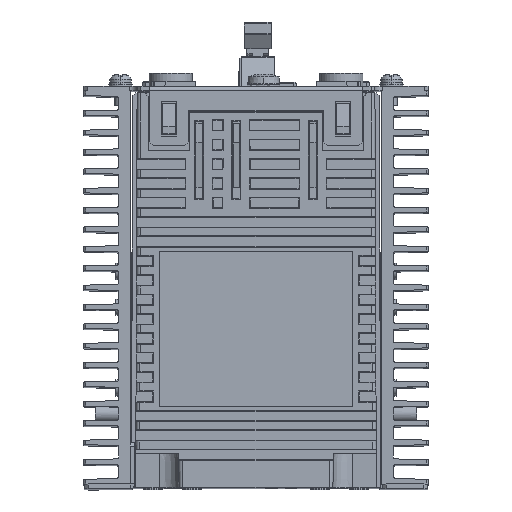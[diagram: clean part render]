
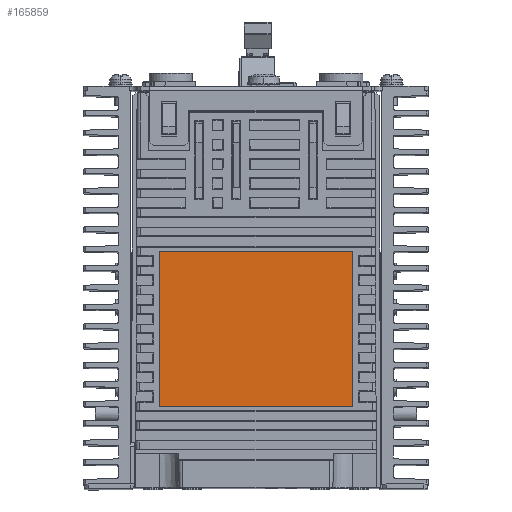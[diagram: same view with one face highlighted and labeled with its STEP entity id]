
A CAD part, top view. The second image highlights one B-rep face of the part: STEP entity #165859.
In plain terms, the highlighted planar face has unit normal (0, 0, 1).
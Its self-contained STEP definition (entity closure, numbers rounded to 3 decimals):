
#35731 = CARTESIAN_POINT ( 'NONE',  ( -25., 61.1, 99.7 ) ) ;
#42371 = CARTESIAN_POINT ( 'NONE',  ( 0., 0.3, 99.7 ) ) ;
#54601 = CARTESIAN_POINT ( 'NONE',  ( -25., 61.1, 99.7 ) ) ;
#55334 = DIRECTION ( 'NONE',  ( -1., 0., 0. ) ) ;
#61529 = LINE ( 'NONE', #248248, #159328 ) ;
#61913 = DIRECTION ( 'NONE',  ( 0., 0., 1. ) ) ;
#77221 = EDGE_CURVE ( 'NONE', #179915, #228974, #61529, .T. ) ;
#81821 = VECTOR ( 'NONE', #100354, 1000. ) ;
#87380 = ORIENTED_EDGE ( 'NONE', *, *, #155795, .T. ) ;
#87830 = VECTOR ( 'NONE', #119660, 1000. ) ;
#100354 = DIRECTION ( 'NONE',  ( 0., 1., 0. ) ) ;
#104202 = EDGE_CURVE ( 'NONE', #228974, #204680, #120261, .T. ) ;
#112167 = ORIENTED_EDGE ( 'NONE', *, *, #77221, .T. ) ;
#119660 = DIRECTION ( 'NONE',  ( 1., 0., 0. ) ) ;
#120261 = LINE ( 'NONE', #216808, #87830 ) ;
#154765 = LINE ( 'NONE', #35731, #252248 ) ;
#155795 = EDGE_CURVE ( 'NONE', #209512, #179915, #154765, .T. ) ;
#159328 = VECTOR ( 'NONE', #170814, 1000. ) ;
#162015 = AXIS2_PLACEMENT_3D ( 'NONE', #42371, #61913, #198508 ) ;
#165859 = ADVANCED_FACE ( 'NONE', ( #230197 ), #178917, .T. ) ;
#170814 = DIRECTION ( 'NONE',  ( 0., -1., 0. ) ) ;
#177199 = CARTESIAN_POINT ( 'NONE',  ( 25., 61.1, 99.7 ) ) ;
#178917 = PLANE ( 'NONE',  #162015 ) ;
#179915 = VERTEX_POINT ( 'NONE', #54601 ) ;
#189930 = CARTESIAN_POINT ( 'NONE',  ( 25., 61.1, 99.7 ) ) ;
#196437 = CARTESIAN_POINT ( 'NONE',  ( -25., 21.1, 99.7 ) ) ;
#198508 = DIRECTION ( 'NONE',  ( 1., 0., 0. ) ) ;
#199116 = EDGE_CURVE ( 'NONE', #204680, #209512, #237428, .T. ) ;
#200750 = ORIENTED_EDGE ( 'NONE', *, *, #199116, .T. ) ;
#204680 = VERTEX_POINT ( 'NONE', #229755 ) ;
#209512 = VERTEX_POINT ( 'NONE', #189930 ) ;
#214171 = ORIENTED_EDGE ( 'NONE', *, *, #104202, .T. ) ;
#216808 = CARTESIAN_POINT ( 'NONE',  ( -25., 21.1, 99.7 ) ) ;
#228974 = VERTEX_POINT ( 'NONE', #196437 ) ;
#229755 = CARTESIAN_POINT ( 'NONE',  ( 25., 21.1, 99.7 ) ) ;
#230197 = FACE_OUTER_BOUND ( 'NONE', #248612, .T. ) ;
#237428 = LINE ( 'NONE', #177199, #81821 ) ;
#248248 = CARTESIAN_POINT ( 'NONE',  ( -25., 61.1, 99.7 ) ) ;
#248612 = EDGE_LOOP ( 'NONE', ( #112167, #214171, #200750, #87380 ) ) ;
#252248 = VECTOR ( 'NONE', #55334, 1000. ) ;
